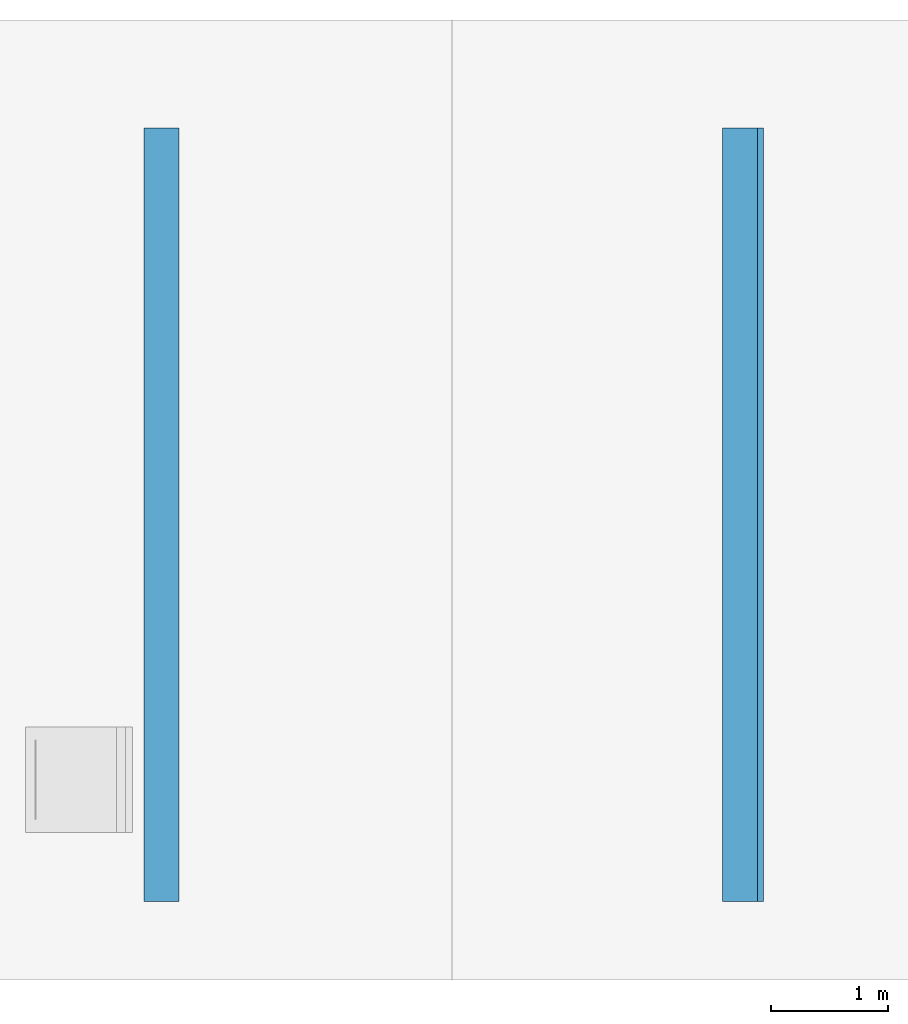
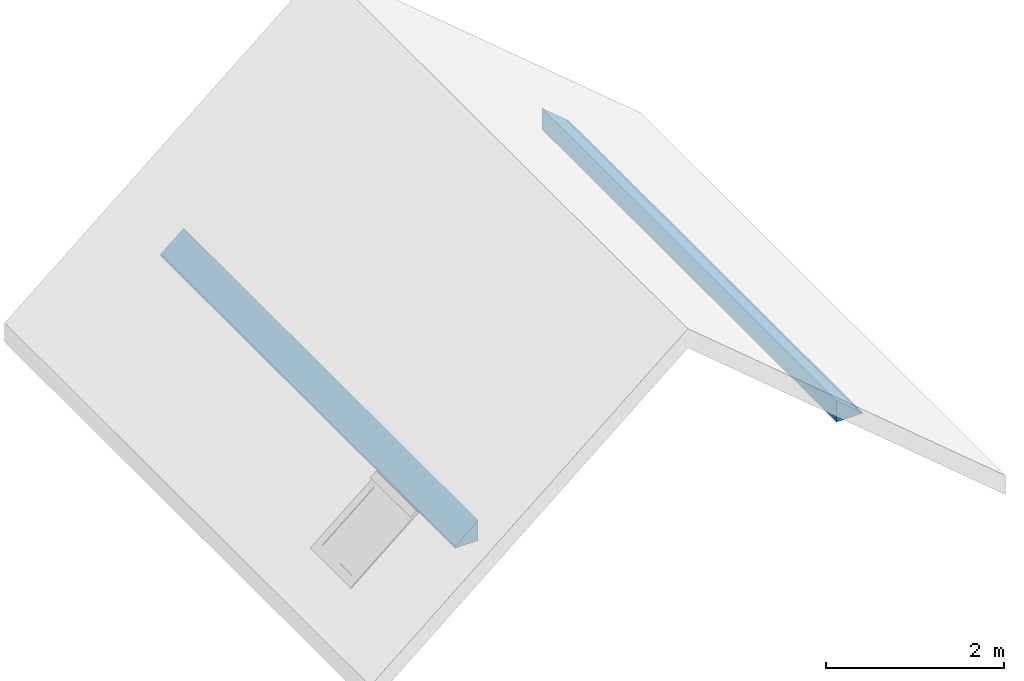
# One storey, part 1 of 2: 3 walls.
"""IFC2X3 building model written with IfcOpenShell, lengths in metres."""

from ifc_helpers import new_model, entity, si_unit, converted_unit, derived_unit, direction, frame, frame_2d, origin, place, context, subcontext, project, spatial, polyline, rectangle, extrude, clip, bounded_halfspace, material, layer, layer_set, layer_usage, type_object, element, save


model = new_model("IFC2X3")

# Units and contexts
model_context = context("Model", 3, precision=1e-05, world=origin(), true_north=direction((6.12303176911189e-17, 1.0)))
body_context = subcontext(model_context, "Body", "Model", "MODEL_VIEW")
ifc_project = project(units=[si_unit("LENGTHUNIT", "METRE"), si_unit("AREAUNIT", "SQUARE_METRE"), si_unit("VOLUMEUNIT", "CUBIC_METRE"), converted_unit("PLANEANGLEUNIT", "DEGREE", entity("IfcRatioMeasure", 0.0174532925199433), si_unit("PLANEANGLEUNIT", "RADIAN"), dimensions=[0, 0, 0, 0, 0, 0, 0]), si_unit("MASSUNIT", "GRAM", prefix="KILO"), derived_unit("MASSDENSITYUNIT", [(si_unit("MASSUNIT", "GRAM", prefix="KILO"), 1), (si_unit("LENGTHUNIT", "METRE"), -3)]), derived_unit("MOMENTOFINERTIAUNIT", [(si_unit("LENGTHUNIT", "METRE"), 4)]), si_unit("TIMEUNIT", "SECOND"), si_unit("FREQUENCYUNIT", "HERTZ"), si_unit("THERMODYNAMICTEMPERATUREUNIT", "DEGREE_CELSIUS"), derived_unit("THERMALTRANSMITTANCEUNIT", [(si_unit("MASSUNIT", "GRAM", prefix="KILO"), 1), (si_unit("THERMODYNAMICTEMPERATUREUNIT", "KELVIN"), -1), (si_unit("TIMEUNIT", "SECOND"), -3)]), derived_unit("VOLUMETRICFLOWRATEUNIT", [(si_unit("LENGTHUNIT", "METRE"), 3), (si_unit("TIMEUNIT", "SECOND"), -1)]), si_unit("ELECTRICCURRENTUNIT", "AMPERE"), si_unit("ELECTRICVOLTAGEUNIT", "VOLT"), si_unit("POWERUNIT", "WATT"), si_unit("FORCEUNIT", "NEWTON", prefix="KILO"), si_unit("ILLUMINANCEUNIT", "LUX"), si_unit("LUMINOUSFLUXUNIT", "LUMEN"), si_unit("LUMINOUSINTENSITYUNIT", "CANDELA"), derived_unit("USERDEFINED", [(si_unit("MASSUNIT", "GRAM", prefix="KILO"), -1), (si_unit("LENGTHUNIT", "METRE"), -2), (si_unit("TIMEUNIT", "SECOND"), 3), (si_unit("LUMINOUSFLUXUNIT", "LUMEN"), 1)]), derived_unit("LINEARVELOCITYUNIT", [(si_unit("LENGTHUNIT", "METRE"), 1), (si_unit("TIMEUNIT", "SECOND"), -1)]), si_unit("PRESSUREUNIT", "PASCAL"), derived_unit("USERDEFINED", [(si_unit("LENGTHUNIT", "METRE"), -2), (si_unit("MASSUNIT", "GRAM", prefix="KILO"), 1), (si_unit("TIMEUNIT", "SECOND"), -2)]), derived_unit("LINEARFORCEUNIT", [(si_unit("MASSUNIT", "GRAM", prefix="KILO"), 1), (si_unit("LENGTHUNIT", "METRE"), 1), (si_unit("TIMEUNIT", "SECOND"), -2), (si_unit("LENGTHUNIT", "METRE"), -1)]), derived_unit("PLANARFORCEUNIT", [(si_unit("MASSUNIT", "GRAM", prefix="KILO"), 1), (si_unit("LENGTHUNIT", "METRE"), 1), (si_unit("TIMEUNIT", "SECOND"), -2), (si_unit("LENGTHUNIT", "METRE"), -2)])], contexts=[model_context])

# Site, building, storey
site_placement = place(None, origin())
site = spatial("IfcSite", under=ifc_project, at=site_placement, Name="Surface", CompositionType="ELEMENT")
building_placement = place(site_placement, origin())
building = spatial("IfcBuilding", under=site, at=building_placement, CompositionType="ELEMENT")
storey_placement = place(building_placement, frame((0.0, 0.0, 3.91000000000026)))
storey = spatial("IfcBuildingStorey", under=building, at=storey_placement, Name="03 Goutière", CompositionType="ELEMENT", Elevation=3.91000000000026)

# Walls
ifc_material_1 = material(Name="Mur par défaut")
ifc_layer_1 = layer(ifc_material_1, 0.05)
ifc_layer_set_1 = layer_set([ifc_layer_1], Name="Mur de base:Int. Plâtre 50 mm")
ifc_layer_usage_1 = layer_usage(ifc_layer_set_1, "AXIS2", "POSITIVE", -0.025)
wall_type_1 = type_object("IfcWallType", Name="Mur de base:Int. Plâtre 50 mm", PredefinedType="STANDARD", material=ifc_layer_set_1)
wall_1_placement = place(storey_placement, frame((12.2165615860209, 3.27903904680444, 1.30999999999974), z_axis=(0.0, 0.0, 1.0), x_axis=(0.0, -1.0, 0.0)))
element("IfcWallStandardCase", 1, at=wall_1_placement, inside=storey, type_object=wall_type_1, material=ifc_layer_usage_1, Name="Mur de base:Int. Plâtre 50 mm", ObjectType="Mur de base:Int. Plâtre 50 mm", context=body_context, shape_type="Clipping", body=[
    clip(extrude(rectangle(XDim=6.60500000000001, YDim=0.0500000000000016, at=frame_2d((3.30250000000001, 4.33680868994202e-17), x_axis=(-1.0, 0.0))), origin(), (0.0, 0.0, 1.0), 0.0428449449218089), bounded_halfspace(frame((0.0, -0.0249999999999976, 0.04284494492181), z_axis=(0.0, 0.642787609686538, 0.766044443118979), x_axis=(-1.0, 0.0, 0.0)), False, frame((0.0, -0.0249999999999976, 0.04284494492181)), polyline([(0.0, 0.0), (6.60500000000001, 0.0), (6.60500000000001, 0.0499999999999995), (3.43500000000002, 0.0499999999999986), (3.38500000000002, 0.0499999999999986), (0.0, 0.0499999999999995), (0.0, 0.0)]))),
])
ifc_material_2 = material(Name="Isolant - laine minérale")
ifc_layer_2 = layer(ifc_material_2, 0.3)
ifc_layer_set_2 = layer_set([ifc_layer_2], Name="Mur de base:Int. Plâtre 100 mm")
ifc_layer_usage_2 = layer_usage(ifc_layer_set_2, "AXIS2", "POSITIVE", -0.15)
wall_type_2 = type_object("IfcWallType", Name="Mur de base:Int. Plâtre 100 mm", PredefinedType="STANDARD", material=ifc_layer_set_2)
wall_2_placement = place(storey_placement, frame((7.1015615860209, 3.27903904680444, 1.30999999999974), z_axis=(0.0, 0.0, 1.0), x_axis=(0.0, -1.0, 0.0)))
element("IfcWallStandardCase", 2, at=wall_2_placement, inside=storey, type_object=wall_type_2, material=ifc_layer_usage_2, Name="Mur de base:Int. Plâtre 100 mm", ObjectType="Mur de base:Int. Plâtre 100 mm", context=body_context, shape_type="Clipping", body=[
    clip(extrude(rectangle(XDim=6.605, YDim=0.299999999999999, at=frame_2d((3.3025, 4.16333634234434e-17), x_axis=(-1.0, 0.0))), origin(), (0.0, 0.0, 1.0), 0.27779284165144), bounded_halfspace(frame((0.0, -0.150000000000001, 0.0260629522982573), z_axis=(0.0, -0.642787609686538, 0.766044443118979), x_axis=(1.0, 0.0, 0.0)), False, frame((0.0, -0.150000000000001, 0.0260629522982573)), polyline([(0.0, 0.0), (6.605, 0.0), (6.605, 0.3), (0.0, 0.3), (0.0, 0.0)]))),
])
ifc_layer_usage_3 = layer_usage(ifc_layer_set_2, "AXIS2", "POSITIVE", -0.15)
wall_3_placement = place(storey_placement, frame((12.0415615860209, 3.27903904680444, 1.30999999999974), z_axis=(0.0, 0.0, 1.0), x_axis=(0.0, -1.0, 0.0)))
element("IfcWallStandardCase", 3, at=wall_3_placement, inside=storey, type_object=wall_type_2, material=ifc_layer_usage_3, Name="Mur de base:Int. Plâtre 100 mm", ObjectType="Mur de base:Int. Plâtre 100 mm", context=body_context, shape_type="Clipping", body=[
    clip(extrude(rectangle(XDim=6.60500000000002, YDim=0.300000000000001, at=frame_2d((3.30250000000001, 4.16333634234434e-17), x_axis=(-1.0, 0.0))), origin(), (0.0, 0.0, 1.0), 0.294574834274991), bounded_halfspace(frame((0.0, -0.149999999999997, 0.294574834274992), z_axis=(0.0, 0.642787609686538, 0.766044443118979), x_axis=(-1.0, 0.0, 0.0)), False, frame((0.0, -0.149999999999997, 0.294574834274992)), polyline([(0.0, 0.0), (6.60500000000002, 0.0), (6.60500000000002, 0.299999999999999), (0.0, 0.299999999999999), (0.0, 0.0)]))),
])

save(model, "model.ifc")
